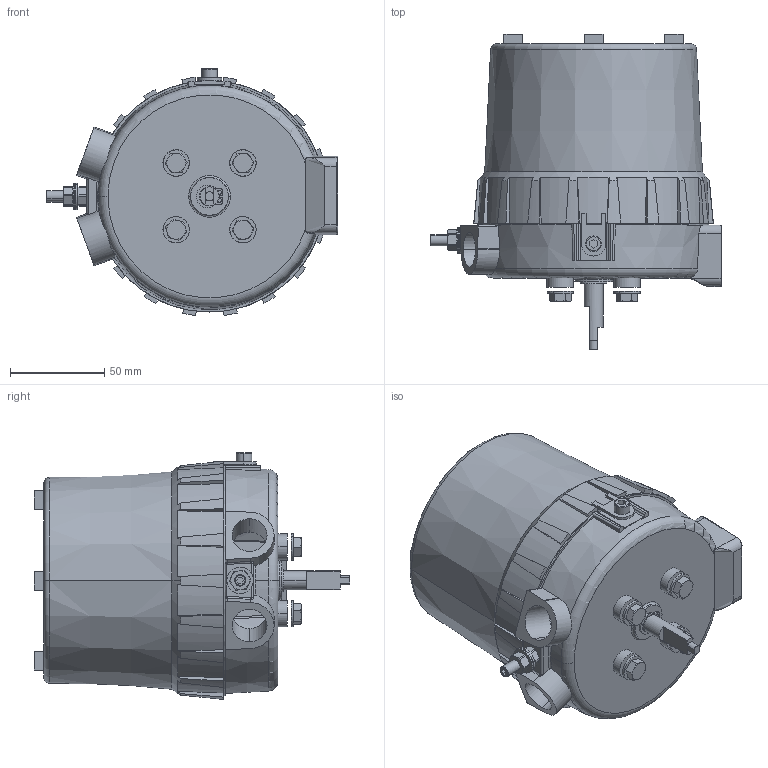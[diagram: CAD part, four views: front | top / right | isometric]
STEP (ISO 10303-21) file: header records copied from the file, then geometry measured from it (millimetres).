
FILE_DESCRIPTION (( 'STEP AP214' ), '1' );
FILE_NAME ('boitier LC6.STEP', '2020-04-15T08:42:01', ( '' ), ( '' ), 'SwSTEP 2.0', 'SolidWorks 2017', '' );
FILE_SCHEMA (( 'AUTOMOTIVE_DESIGN' ));
Length unit declared in the file: millimetre
Products named in the file (2): boitier LC6
Bounding box: 154.62 x 167 x 130.78 mm (x, y, z)
Surface area: 103394.8 mm2 (no closed solid volume)
Topology: 0 solids, 97 shells, 1063 faces, 6255 edges, 5220 vertices
Faces by surface type: plane 596, bspline 247, cylinder 121, cone 85, torus 14
Entity records: 105002 total; most frequent: CARTESIAN_POINT 51877, ORIENTED_EDGE 7956, EDGE_CURVE 6252, DIRECTION 5970, VERTEX_POINT 5220, VECTOR 3466, LINE 3466, B_SPLINE_CURVE_WITH_KNOTS 2326
